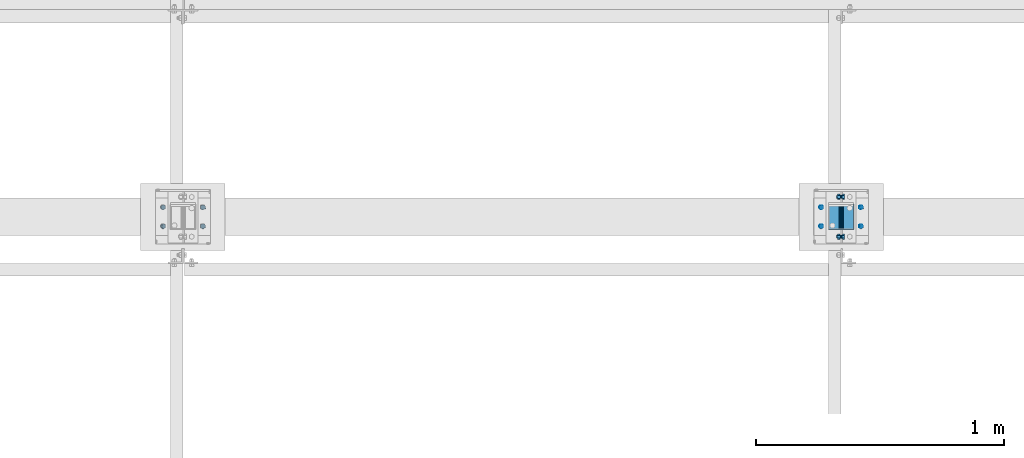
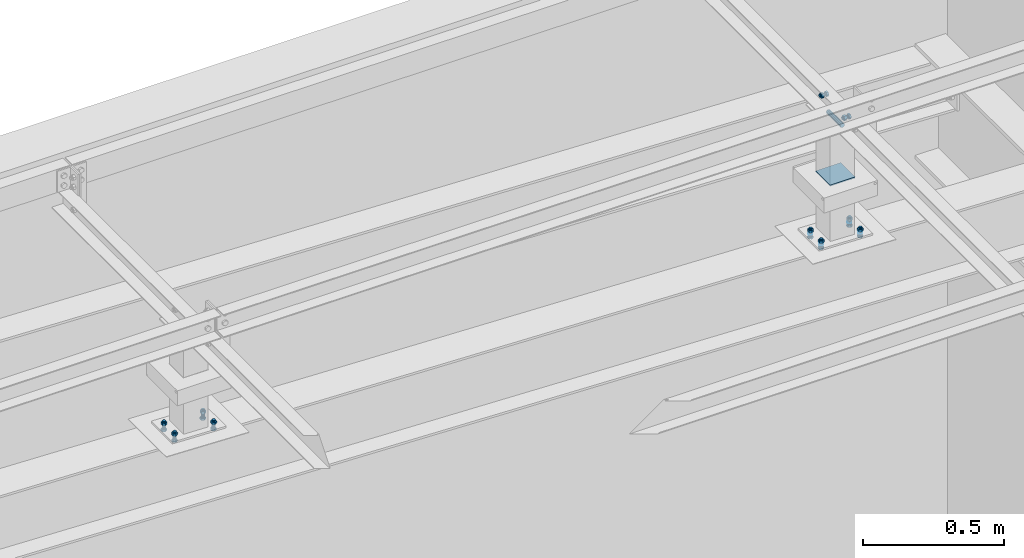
# One storey, part 217 of 3134: 6 mechanical fasteners, 4 elements without a shape of their own.
"""IFC2X3 building model written with IfcOpenShell, lengths in millimetres."""

from ifc_helpers import new_model, si_unit, frame, origin_with_axes, place, context, subcontext, project, spatial, faceted_brep, source, transform, mapped, material, type_object, element, aggregate, save


model = new_model("IFC2X3")

# Units and contexts
model_context = context("Model", 3, precision=1e-05, world=origin_with_axes())
body_context = subcontext(model_context, "Body", "Model", "MODEL_VIEW")
ifc_project = project(units=[si_unit("LENGTHUNIT", "METRE", prefix="MILLI"), si_unit("AREAUNIT", "SQUARE_METRE"), si_unit("VOLUMEUNIT", "CUBIC_METRE"), si_unit("MASSUNIT", "GRAM", prefix="KILO"), si_unit("TIMEUNIT", "SECOND"), si_unit("PLANEANGLEUNIT", "RADIAN"), si_unit("SOLIDANGLEUNIT", "STERADIAN"), si_unit("THERMODYNAMICTEMPERATUREUNIT", "DEGREE_CELSIUS"), si_unit("LUMINOUSINTENSITYUNIT", "LUMEN")], contexts=[model_context])

# Site, building, storey
site_placement = place(None, origin_with_axes())
site = spatial("IfcSite", under=ifc_project, at=site_placement, CompositionType="ELEMENT")
building_placement = place(site_placement, origin_with_axes())
building = spatial("IfcBuilding", under=site, at=building_placement, Name="Undefined", CompositionType="ELEMENT")
storey_placement = place(building_placement, origin_with_axes())
storey = spatial("IfcBuildingStorey", under=building, at=storey_placement, Name="Undefined", CompositionType="ELEMENT", Elevation=0.0)

# Assembly, mechanical fastener
assembly_1_placement = place(storey_placement, origin_with_axes())
assembly_1 = element("IfcElementAssembly", 1, at=assembly_1_placement, inside=storey, AssemblyPlace="NOTDEFINED", PredefinedType="RIGID_FRAME")
ifc_material_1 = material(Name="8.8")
mechanical_fastener_type = type_object("IfcMechanicalFastenerType", Name="Bolt assembly")
shared_shape_1 = source(origin_with_axes(), body_context, "Body", "Brep", [
    faceted_brep([(10.9696551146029, -14.0, 0.0), (5.48482755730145, -14.0, 9.5), (-5.48482755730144, -14.0, 9.5), (-10.9696551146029, -14.0, 1.34339530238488e-15), (-5.48482755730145, -14.0, -9.5), (5.48482755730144, -14.0, -9.50000000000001), (5.48482755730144, -6.0, -9.50000000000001), (-5.48482755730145, -6.0, -9.5), (-10.9696551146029, -6.0, 1.34339530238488e-15), (-5.48482755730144, -6.0, 9.5), (5.48482755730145, -6.0, 9.5), (10.9696551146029, -6.0, 0.0), (6.0, -6.0, 0.0), (5.19615242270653, -6.0, 3.00000000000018), (2.99999999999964, -6.0, 5.19615242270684), (-6.21801588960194e-13, -6.0, 6.0), (-3.00000000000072, -6.0, 5.19615242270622), (-5.19615242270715, -6.0, 2.9999999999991), (-6.0, -6.0, -1.24360317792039e-12), (-5.19615242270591, -6.0, -3.00000000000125), (-2.99999999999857, -6.0, -5.19615242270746), (1.85874342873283e-12, -6.0, -6.0), (3.00000000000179, -6.0, -5.1961524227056), (5.19615242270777, -6.0, -2.99999999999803), (5.19615242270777, 19.0, -2.99999999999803), (3.00000000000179, 19.0, -5.1961524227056), (1.85874342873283e-12, 19.0, -6.0), (-2.99999999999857, 19.0, -5.19615242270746), (-5.19615242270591, 19.0, -3.00000000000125), (-6.0, 19.0, -1.24360317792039e-12), (-5.19615242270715, 19.0, 2.9999999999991), (-3.00000000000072, 19.0, 5.19615242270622), (-6.21801588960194e-13, 19.0, 6.0), (2.99999999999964, 19.0, 5.19615242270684), (5.19615242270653, 19.0, 3.00000000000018), (6.0, 19.0, 0.0), (10.9696551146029, 4.00000000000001, 0.0), (5.48482755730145, 4.00000000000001, 9.5), (-5.48482755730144, 4.00000000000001, 9.5), (-10.9696551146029, 4.00000000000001, 1.34339530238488e-15), (-5.48482755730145, 4.00000000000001, -9.5), (5.48482755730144, 4.00000000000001, -9.50000000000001), (5.48482755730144, 14.0, -9.50000000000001), (-5.48482755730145, 14.0, -9.5), (-10.9696551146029, 14.0, 1.34339530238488e-15), (-5.48482755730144, 14.0, 9.5), (5.48482755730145, 14.0, 9.5), (10.9696551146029, 14.0, 0.0)], [[[0, 1, 2, 3, 4, 5]], [[6, 7, 8, 9, 10, 11]], [[0, 11, 10, 1]], [[1, 10, 9, 2]], [[2, 9, 8, 3]], [[3, 8, 7, 4]], [[4, 7, 6, 5]], [[5, 6, 11, 0]], [[12, 13, 14, 15, 16, 17, 18, 19, 20, 21, 22, 23]], [[24, 25, 26, 27, 28, 29, 30, 31, 32, 33, 34, 35]], [[12, 35, 34, 13]], [[13, 34, 33, 14]], [[14, 33, 32, 15]], [[15, 32, 31, 16]], [[16, 31, 30, 17]], [[17, 30, 29, 18]], [[18, 29, 28, 19]], [[19, 28, 27, 20]], [[20, 27, 26, 21]], [[21, 26, 25, 22]], [[22, 25, 24, 23]], [[23, 24, 35, 12]], [[36, 37, 38, 39, 40, 41]], [[42, 43, 44, 45, 46, 47]], [[36, 47, 46, 37]], [[37, 46, 45, 38]], [[38, 45, 44, 39]], [[39, 44, 43, 40]], [[40, 43, 42, 41]], [[41, 42, 47, 36]]]),
    faceted_brep([(7.0, -0.1, 0.0), (6.06217782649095, -0.1, 3.50000000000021), (3.49999999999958, -0.1, 6.06217782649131), (-7.25435187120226e-13, -0.1, 7.0), (-3.50000000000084, -0.1, 6.06217782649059), (-6.06217782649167, -0.1, 3.49999999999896), (-7.0, -0.1, -1.45087037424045e-12), (-6.06217782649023, -0.1, -3.50000000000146), (-3.49999999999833, -0.1, -6.06217782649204), (2.1685340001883e-12, -0.1, -7.0), (3.50000000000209, -0.1, -6.06217782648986), (6.0621778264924, -0.1, -3.4999999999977), (6.0621778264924, 4.00000000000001, -3.4999999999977), (3.50000000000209, 4.00000000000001, -6.06217782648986), (2.1685340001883e-12, 4.00000000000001, -7.0), (-3.49999999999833, 4.00000000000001, -6.06217782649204), (-6.06217782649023, 4.00000000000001, -3.50000000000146), (-7.0, 4.00000000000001, -1.45087037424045e-12), (-6.06217782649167, 4.00000000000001, 3.49999999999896), (-3.50000000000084, 4.00000000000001, 6.06217782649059), (-7.25435187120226e-13, 4.00000000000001, 7.0), (3.49999999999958, 4.00000000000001, 6.06217782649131), (6.06217782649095, 4.00000000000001, 3.50000000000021), (7.0, 4.00000000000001, 0.0), (7.0, -5.9, 0.0), (6.06217782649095, -5.9, 3.50000000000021), (3.49999999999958, -5.9, 6.06217782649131), (-7.25435187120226e-13, -5.9, 7.0), (-3.50000000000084, -5.9, 6.06217782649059), (-6.06217782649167, -5.9, 3.49999999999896), (-7.0, -5.9, -1.45087037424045e-12), (-6.06217782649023, -5.9, -3.50000000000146), (-3.49999999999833, -5.9, -6.06217782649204), (2.1685340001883e-12, -5.9, -7.0), (3.50000000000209, -5.9, -6.06217782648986), (6.0621778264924, -5.9, -3.4999999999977), (6.0621778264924, 0.0999999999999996, -3.4999999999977), (3.50000000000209, 0.0999999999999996, -6.06217782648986), (2.1685340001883e-12, 0.0999999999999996, -7.0), (-3.49999999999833, 0.0999999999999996, -6.06217782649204), (-6.06217782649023, 0.0999999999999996, -3.50000000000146), (-7.0, 0.0999999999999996, -1.45087037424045e-12), (-6.06217782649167, 0.0999999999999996, 3.49999999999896), (-3.50000000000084, 0.0999999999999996, 6.06217782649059), (-7.25435187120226e-13, 0.0999999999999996, 7.0), (3.49999999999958, 0.0999999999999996, 6.06217782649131), (6.06217782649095, 0.0999999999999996, 3.50000000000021), (7.0, 0.0999999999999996, 0.0)], [[[0, 1, 2, 3, 4, 5, 6, 7, 8, 9, 10, 11]], [[12, 13, 14, 15, 16, 17, 18, 19, 20, 21, 22, 23]], [[0, 23, 22, 1]], [[1, 22, 21, 2]], [[2, 21, 20, 3]], [[3, 20, 19, 4]], [[4, 19, 18, 5]], [[5, 18, 17, 6]], [[6, 17, 16, 7]], [[7, 16, 15, 8]], [[8, 15, 14, 9]], [[9, 14, 13, 10]], [[10, 13, 12, 11]], [[11, 12, 23, 0]], [[24, 25, 26, 27, 28, 29, 30, 31, 32, 33, 34, 35]], [[36, 37, 38, 39, 40, 41, 42, 43, 44, 45, 46, 47]], [[24, 47, 46, 25]], [[25, 46, 45, 26]], [[26, 45, 44, 27]], [[27, 44, 43, 28]], [[28, 43, 42, 29]], [[29, 42, 41, 30]], [[30, 41, 40, 31]], [[31, 40, 39, 32]], [[32, 39, 38, 33]], [[33, 38, 37, 34]], [[34, 37, 36, 35]], [[35, 36, 47, 24]]]),
])
mechanical_fastener_1_placement = place(assembly_1_placement, frame((8340.0, 48445.0, 4300.0), z_axis=(0.0, 0.0, 1.0), x_axis=(0.0, 1.0, 0.0)))
mechanical_fastener_1 = element("IfcMechanicalFastener", 2, at=mechanical_fastener_1_placement, type_object=mechanical_fastener_type, material=ifc_material_1, Name="Bolt assembly", NominalDiameter=12.0, NominalLength=25.0, context=body_context, shape_type="MappedRepresentation", body=[
    mapped(shared_shape_1, transform((0.0, 0.0, 0.0))),
    mapped(shared_shape_1, transform((160.0, 0.0, 0.0))),
])
aggregate(assembly_1, [mechanical_fastener_1])

assembly_2_placement = place(storey_placement, origin_with_axes())
assembly_2 = element("IfcElementAssembly", 3, at=assembly_2_placement, inside=storey, AssemblyPlace="NOTDEFINED", PredefinedType="RIGID_FRAME")
shared_shape_2 = source(origin_with_axes(), body_context, "Body", "Brep", [
    faceted_brep([(10.9696551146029, -4.18280906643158, 0.0), (5.48482755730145, -4.18280906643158, 9.5), (-5.48482755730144, -4.18280906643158, 9.5), (-10.9696551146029, -4.18280906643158, 1.34339530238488e-15), (-5.48482755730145, -4.18280906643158, -9.5), (5.48482755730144, -4.18280906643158, -9.50000000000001), (5.48482755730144, 3.81719093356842, -9.50000000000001), (-5.48482755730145, 3.81719093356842, -9.5), (-10.9696551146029, 3.81719093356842, 1.34339530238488e-15), (-5.48482755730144, 3.81719093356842, 9.5), (5.48482755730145, 3.81719093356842, 9.5), (10.9696551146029, 3.81719093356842, 0.0), (6.0, 3.81719093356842, 0.0), (5.19615242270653, 3.81719093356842, 3.00000000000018), (2.99999999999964, 3.81719093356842, 5.19615242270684), (-6.21801588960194e-13, 3.81719093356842, 6.0), (-3.00000000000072, 3.81719093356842, 5.19615242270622), (-5.19615242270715, 3.81719093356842, 2.9999999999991), (-6.0, 3.81719093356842, -1.24360317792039e-12), (-5.19615242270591, 3.81719093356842, -3.00000000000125), (-2.99999999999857, 3.81719093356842, -5.19615242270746), (1.85874342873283e-12, 3.81719093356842, -6.0), (3.00000000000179, 3.81719093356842, -5.1961524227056), (5.19615242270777, 3.81719093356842, -2.99999999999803), (5.19615242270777, 38.8171909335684, -2.99999999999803), (3.00000000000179, 38.8171909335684, -5.1961524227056), (1.85874342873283e-12, 38.8171909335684, -6.0), (-2.99999999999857, 38.8171909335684, -5.19615242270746), (-5.19615242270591, 38.8171909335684, -3.00000000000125), (-6.0, 38.8171909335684, -1.24360317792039e-12), (-5.19615242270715, 38.8171909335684, 2.9999999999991), (-3.00000000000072, 38.8171909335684, 5.19615242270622), (-6.21801588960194e-13, 38.8171909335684, 6.0), (2.99999999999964, 38.8171909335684, 5.19615242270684), (5.19615242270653, 38.8171909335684, 3.00000000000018), (6.0, 38.8171909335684, 0.0), (10.9696551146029, 23.0139082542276, 0.0), (5.48482755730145, 23.0139082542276, 9.5), (-5.48482755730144, 23.0139082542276, 9.5), (-10.9696551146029, 23.0139082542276, 1.34339530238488e-15), (-5.48482755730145, 23.0139082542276, -9.5), (5.48482755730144, 23.0139082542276, -9.50000000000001), (5.48482755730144, 33.0139082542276, -9.50000000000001), (-5.48482755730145, 33.0139082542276, -9.5), (-10.9696551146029, 33.0139082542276, 1.34339530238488e-15), (-5.48482755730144, 33.0139082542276, 9.5), (5.48482755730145, 33.0139082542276, 9.5), (10.9696551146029, 33.0139082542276, 0.0)], [[[0, 1, 2, 3, 4, 5]], [[6, 7, 8, 9, 10, 11]], [[0, 11, 10, 1]], [[1, 10, 9, 2]], [[2, 9, 8, 3]], [[3, 8, 7, 4]], [[4, 7, 6, 5]], [[5, 6, 11, 0]], [[12, 13, 14, 15, 16, 17, 18, 19, 20, 21, 22, 23]], [[24, 25, 26, 27, 28, 29, 30, 31, 32, 33, 34, 35]], [[12, 35, 34, 13]], [[13, 34, 33, 14]], [[14, 33, 32, 15]], [[15, 32, 31, 16]], [[16, 31, 30, 17]], [[17, 30, 29, 18]], [[18, 29, 28, 19]], [[19, 28, 27, 20]], [[20, 27, 26, 21]], [[21, 26, 25, 22]], [[22, 25, 24, 23]], [[23, 24, 35, 12]], [[36, 37, 38, 39, 40, 41]], [[42, 43, 44, 45, 46, 47]], [[36, 47, 46, 37]], [[37, 46, 45, 38]], [[38, 45, 44, 39]], [[39, 44, 43, 40]], [[40, 43, 42, 41]], [[41, 42, 47, 36]]]),
    faceted_brep([(7.0, 3.91719093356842, 0.0), (6.06217782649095, 3.91719093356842, 3.50000000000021), (3.49999999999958, 3.91719093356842, 6.06217782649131), (-7.25435187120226e-13, 3.91719093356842, 7.0), (-3.50000000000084, 3.91719093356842, 6.06217782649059), (-6.06217782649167, 3.91719093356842, 3.49999999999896), (-7.0, 3.91719093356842, -1.45087037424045e-12), (-6.06217782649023, 3.91719093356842, -3.50000000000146), (-3.49999999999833, 3.91719093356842, -6.06217782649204), (2.1685340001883e-12, 3.91719093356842, -7.0), (3.50000000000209, 3.91719093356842, -6.06217782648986), (6.0621778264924, 3.91719093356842, -3.4999999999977), (6.0621778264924, 13.1171907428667, -3.4999999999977), (3.50000000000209, 13.1171907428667, -6.06217782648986), (2.1685340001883e-12, 13.1171907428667, -7.0), (-3.49999999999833, 13.1171907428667, -6.06217782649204), (-6.06217782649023, 13.1171907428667, -3.50000000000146), (-7.0, 13.1171907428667, -1.45087037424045e-12), (-6.06217782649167, 13.1171907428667, 3.49999999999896), (-3.50000000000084, 13.1171907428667, 6.06217782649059), (-7.25435187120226e-13, 13.1171907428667, 7.0), (3.49999999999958, 13.1171907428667, 6.06217782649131), (6.06217782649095, 13.1171907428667, 3.50000000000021), (7.0, 13.1171907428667, 0.0), (7.0, 14.9139082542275, 0.0), (6.06217782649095, 14.9139082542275, 3.50000000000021), (3.49999999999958, 14.9139082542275, 6.06217782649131), (-7.25435187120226e-13, 14.9139082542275, 7.0), (-3.50000000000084, 14.9139082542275, 6.06217782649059), (-6.06217782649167, 14.9139082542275, 3.49999999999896), (-7.0, 14.9139082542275, -1.45087037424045e-12), (-6.06217782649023, 14.9139082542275, -3.50000000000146), (-3.49999999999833, 14.9139082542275, -6.06217782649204), (2.1685340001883e-12, 14.9139082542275, -7.0), (3.50000000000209, 14.9139082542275, -6.06217782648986), (6.0621778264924, 14.9139082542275, -3.4999999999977), (6.0621778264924, 23.0139082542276, -3.4999999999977), (3.50000000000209, 23.0139082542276, -6.06217782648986), (2.1685340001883e-12, 23.0139082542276, -7.0), (-3.49999999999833, 23.0139082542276, -6.06217782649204), (-6.06217782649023, 23.0139082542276, -3.50000000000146), (-7.0, 23.0139082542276, -1.45087037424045e-12), (-6.06217782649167, 23.0139082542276, 3.49999999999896), (-3.50000000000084, 23.0139082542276, 6.06217782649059), (-7.25435187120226e-13, 23.0139082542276, 7.0), (3.49999999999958, 23.0139082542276, 6.06217782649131), (6.06217782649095, 23.0139082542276, 3.50000000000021), (7.0, 23.0139082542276, 0.0)], [[[0, 1, 2, 3, 4, 5, 6, 7, 8, 9, 10, 11]], [[12, 13, 14, 15, 16, 17, 18, 19, 20, 21, 22, 23]], [[0, 23, 22, 1]], [[1, 22, 21, 2]], [[2, 21, 20, 3]], [[3, 20, 19, 4]], [[4, 19, 18, 5]], [[5, 18, 17, 6]], [[6, 17, 16, 7]], [[7, 16, 15, 8]], [[8, 15, 14, 9]], [[9, 14, 13, 10]], [[10, 13, 12, 11]], [[11, 12, 23, 0]], [[24, 25, 26, 27, 28, 29, 30, 31, 32, 33, 34, 35]], [[36, 37, 38, 39, 40, 41, 42, 43, 44, 45, 46, 47]], [[24, 47, 46, 25]], [[25, 46, 45, 26]], [[26, 45, 44, 27]], [[27, 44, 43, 28]], [[28, 43, 42, 29]], [[29, 42, 41, 30]], [[30, 41, 40, 31]], [[31, 40, 39, 32]], [[32, 39, 38, 33]], [[33, 38, 37, 34]], [[34, 37, 36, 35]], [[35, 36, 47, 24]]]),
])
mechanical_fastener_2_placement = place(assembly_2_placement, frame((5690.86475070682, 48562.9999999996, 3827.79222028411), z_axis=(-0.999387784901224, 0.0, 0.0349865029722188), x_axis=(0.0, -1.0, 0.0)))
mechanical_fastener_2 = element("IfcMechanicalFastener", 4, at=mechanical_fastener_2_placement, type_object=mechanical_fastener_type, material=ifc_material_1, Name="Bolt assembly", NominalDiameter=12.0, NominalLength=35.0, context=body_context, shape_type="MappedRepresentation", body=[
    mapped(shared_shape_2, transform((0.0, -5.32963895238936e-10, -79.9999999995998))),
    mapped(shared_shape_2, transform((76.0, -5.32963895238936e-10, -79.9999999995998))),
    mapped(shared_shape_2, transform((0.0, 5.3114490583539e-10, 79.9999999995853))),
    mapped(shared_shape_2, transform((76.0, 5.3114490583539e-10, 79.9999999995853))),
])
aggregate(assembly_2, [mechanical_fastener_2])

assembly_3_placement = place(storey_placement, origin_with_axes())
assembly_3 = element("IfcElementAssembly", 5, at=assembly_3_placement, inside=storey, AssemblyPlace="NOTDEFINED", PredefinedType="RIGID_FRAME")
shared_shape_3 = source(origin_with_axes(), body_context, "Body", "Brep", [
    faceted_brep([(10.9696551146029, -4.18346828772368, 0.0), (5.48482755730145, -4.18346828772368, 9.5), (-5.48482755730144, -4.18346828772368, 9.5), (-10.9696551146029, -4.18346828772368, 1.34339530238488e-15), (-5.48482755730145, -4.18346828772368, -9.5), (5.48482755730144, -4.18346828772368, -9.50000000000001), (5.48482755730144, 3.81653171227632, -9.50000000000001), (-5.48482755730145, 3.81653171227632, -9.5), (-10.9696551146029, 3.81653171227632, 1.34339530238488e-15), (-5.48482755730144, 3.81653171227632, 9.5), (5.48482755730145, 3.81653171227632, 9.5), (10.9696551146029, 3.81653171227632, 0.0), (6.0, 3.81653171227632, 0.0), (5.19615242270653, 3.81653171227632, 3.00000000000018), (2.99999999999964, 3.81653171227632, 5.19615242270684), (-6.21801588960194e-13, 3.81653171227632, 6.0), (-3.00000000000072, 3.81653171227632, 5.19615242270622), (-5.19615242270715, 3.81653171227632, 2.9999999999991), (-6.0, 3.81653171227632, -1.24360317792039e-12), (-5.19615242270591, 3.81653171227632, -3.00000000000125), (-2.99999999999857, 3.81653171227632, -5.19615242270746), (1.85874342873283e-12, 3.81653171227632, -6.0), (3.00000000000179, 3.81653171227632, -5.1961524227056), (5.19615242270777, 3.81653171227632, -2.99999999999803), (5.19615242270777, 38.8165317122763, -2.99999999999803), (3.00000000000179, 38.8165317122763, -5.1961524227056), (1.85874342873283e-12, 38.8165317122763, -6.0), (-2.99999999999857, 38.8165317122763, -5.19615242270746), (-5.19615242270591, 38.8165317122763, -3.00000000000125), (-6.0, 38.8165317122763, -1.24360317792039e-12), (-5.19615242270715, 38.8165317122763, 2.9999999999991), (-3.00000000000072, 38.8165317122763, 5.19615242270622), (-6.21801588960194e-13, 38.8165317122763, 6.0), (2.99999999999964, 38.8165317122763, 5.19615242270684), (5.19615242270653, 38.8165317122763, 3.00000000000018), (6.0, 38.8165317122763, 0.0), (10.9696551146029, 23.0139082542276, 0.0), (5.48482755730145, 23.0139082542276, 9.5), (-5.48482755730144, 23.0139082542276, 9.5), (-10.9696551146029, 23.0139082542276, 1.34339530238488e-15), (-5.48482755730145, 23.0139082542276, -9.5), (5.48482755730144, 23.0139082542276, -9.50000000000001), (5.48482755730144, 33.0139082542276, -9.50000000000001), (-5.48482755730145, 33.0139082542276, -9.5), (-10.9696551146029, 33.0139082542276, 1.34339530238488e-15), (-5.48482755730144, 33.0139082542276, 9.5), (5.48482755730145, 33.0139082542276, 9.5), (10.9696551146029, 33.0139082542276, 0.0)], [[[0, 1, 2, 3, 4, 5]], [[6, 7, 8, 9, 10, 11]], [[0, 11, 10, 1]], [[1, 10, 9, 2]], [[2, 9, 8, 3]], [[3, 8, 7, 4]], [[4, 7, 6, 5]], [[5, 6, 11, 0]], [[12, 13, 14, 15, 16, 17, 18, 19, 20, 21, 22, 23]], [[24, 25, 26, 27, 28, 29, 30, 31, 32, 33, 34, 35]], [[12, 35, 34, 13]], [[13, 34, 33, 14]], [[14, 33, 32, 15]], [[15, 32, 31, 16]], [[16, 31, 30, 17]], [[17, 30, 29, 18]], [[18, 29, 28, 19]], [[19, 28, 27, 20]], [[20, 27, 26, 21]], [[21, 26, 25, 22]], [[22, 25, 24, 23]], [[23, 24, 35, 12]], [[36, 37, 38, 39, 40, 41]], [[42, 43, 44, 45, 46, 47]], [[36, 47, 46, 37]], [[37, 46, 45, 38]], [[38, 45, 44, 39]], [[39, 44, 43, 40]], [[40, 43, 42, 41]], [[41, 42, 47, 36]]]),
    faceted_brep([(7.0, 3.91653171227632, 0.0), (6.06217782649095, 3.91653171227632, 3.50000000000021), (3.49999999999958, 3.91653171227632, 6.06217782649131), (-7.25435187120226e-13, 3.91653171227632, 7.0), (-3.50000000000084, 3.91653171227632, 6.06217782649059), (-6.06217782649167, 3.91653171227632, 3.49999999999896), (-7.0, 3.91653171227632, -1.45087037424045e-12), (-6.06217782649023, 3.91653171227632, -3.50000000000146), (-3.49999999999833, 3.91653171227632, -6.06217782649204), (2.1685340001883e-12, 3.91653171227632, -7.0), (3.50000000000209, 3.91653171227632, -6.06217782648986), (6.0621778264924, 3.91653171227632, -3.4999999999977), (6.0621778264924, 13.1165315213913, -3.4999999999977), (3.50000000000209, 13.1165315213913, -6.06217782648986), (2.1685340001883e-12, 13.1165315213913, -7.0), (-3.49999999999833, 13.1165315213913, -6.06217782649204), (-6.06217782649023, 13.1165315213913, -3.50000000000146), (-7.0, 13.1165315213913, -1.45087037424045e-12), (-6.06217782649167, 13.1165315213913, 3.49999999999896), (-3.50000000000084, 13.1165315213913, 6.06217782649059), (-7.25435187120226e-13, 13.1165315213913, 7.0), (3.49999999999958, 13.1165315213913, 6.06217782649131), (6.06217782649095, 13.1165315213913, 3.50000000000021), (7.0, 13.1165315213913, 0.0), (7.0, 14.9139082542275, 0.0), (6.06217782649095, 14.9139082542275, 3.50000000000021), (3.49999999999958, 14.9139082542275, 6.06217782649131), (-7.25435187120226e-13, 14.9139082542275, 7.0), (-3.50000000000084, 14.9139082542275, 6.06217782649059), (-6.06217782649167, 14.9139082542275, 3.49999999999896), (-7.0, 14.9139082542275, -1.45087037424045e-12), (-6.06217782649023, 14.9139082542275, -3.50000000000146), (-3.49999999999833, 14.9139082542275, -6.06217782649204), (2.1685340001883e-12, 14.9139082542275, -7.0), (3.50000000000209, 14.9139082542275, -6.06217782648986), (6.0621778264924, 14.9139082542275, -3.4999999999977), (6.0621778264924, 23.0139082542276, -3.4999999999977), (3.50000000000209, 23.0139082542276, -6.06217782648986), (2.1685340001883e-12, 23.0139082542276, -7.0), (-3.49999999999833, 23.0139082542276, -6.06217782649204), (-6.06217782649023, 23.0139082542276, -3.50000000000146), (-7.0, 23.0139082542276, -1.45087037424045e-12), (-6.06217782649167, 23.0139082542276, 3.49999999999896), (-3.50000000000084, 23.0139082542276, 6.06217782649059), (-7.25435187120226e-13, 23.0139082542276, 7.0), (3.49999999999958, 23.0139082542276, 6.06217782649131), (6.06217782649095, 23.0139082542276, 3.50000000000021), (7.0, 23.0139082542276, 0.0)], [[[0, 1, 2, 3, 4, 5, 6, 7, 8, 9, 10, 11]], [[12, 13, 14, 15, 16, 17, 18, 19, 20, 21, 22, 23]], [[0, 23, 22, 1]], [[1, 22, 21, 2]], [[2, 21, 20, 3]], [[3, 20, 19, 4]], [[4, 19, 18, 5]], [[5, 18, 17, 6]], [[6, 17, 16, 7]], [[7, 16, 15, 8]], [[8, 15, 14, 9]], [[9, 14, 13, 10]], [[10, 13, 12, 11]], [[11, 12, 23, 0]], [[24, 25, 26, 27, 28, 29, 30, 31, 32, 33, 34, 35]], [[36, 37, 38, 39, 40, 41, 42, 43, 44, 45, 46, 47]], [[24, 47, 46, 25]], [[25, 46, 45, 26]], [[26, 45, 44, 27]], [[27, 44, 43, 28]], [[28, 43, 42, 29]], [[29, 42, 41, 30]], [[30, 41, 40, 31]], [[31, 40, 39, 32]], [[32, 39, 38, 33]], [[33, 38, 37, 34]], [[34, 37, 36, 35]], [[35, 36, 47, 24]]]),
])
mechanical_fastener_3_placement = place(assembly_3_placement, frame((8339.19318655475, 48562.9999999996, 3735.10000668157), z_axis=(-0.999387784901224, 0.0, 0.0349865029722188), x_axis=(0.0, -1.0, 0.0)))
mechanical_fastener_3 = element("IfcMechanicalFastener", 6, at=mechanical_fastener_3_placement, type_object=mechanical_fastener_type, material=ifc_material_1, Name="Bolt assembly", NominalDiameter=12.0, NominalLength=35.0, context=body_context, shape_type="MappedRepresentation", body=[
    mapped(shared_shape_3, transform((0.0, -5.32963895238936e-10, -79.9999999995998))),
    mapped(shared_shape_3, transform((76.0, -5.32963895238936e-10, -79.9999999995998))),
    mapped(shared_shape_3, transform((0.0, 5.3114490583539e-10, 79.9999999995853))),
    mapped(shared_shape_3, transform((76.0, 5.3114490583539e-10, 79.9999999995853))),
])

assembly_4_placement = place(storey_placement, origin_with_axes())
assembly_4 = element("IfcElementAssembly", 7, at=assembly_4_placement, inside=storey, AssemblyPlace="NOTDEFINED", PredefinedType="RIGID_FRAME")
shared_shape_4 = source(origin_with_axes(), body_context, "Body", "Brep", [
    faceted_brep([(7.0, 13.0000253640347, 0.0), (6.06217782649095, 13.0000253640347, 3.50000000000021), (3.49999999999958, 13.0000253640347, 6.06217782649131), (-7.25435187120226e-13, 13.0000253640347, 7.0), (-3.50000000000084, 13.0000253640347, 6.06217782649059), (-6.06217782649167, 13.0000253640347, 3.49999999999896), (-7.0, 13.0000253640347, -1.45087037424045e-12), (-6.06217782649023, 13.0000253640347, -3.50000000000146), (-3.49999999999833, 13.0000253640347, -6.06217782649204), (2.1685340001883e-12, 13.0000253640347, -7.0), (3.50000000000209, 13.0000253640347, -6.06217782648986), (6.0621778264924, 13.0000253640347, -3.4999999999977), (6.0621778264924, 15.0999999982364, -3.4999999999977), (3.50000000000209, 15.0999999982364, -6.06217782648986), (2.1685340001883e-12, 15.0999999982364, -7.0), (-3.49999999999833, 15.0999999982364, -6.06217782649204), (-6.06217782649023, 15.0999999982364, -3.50000000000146), (-7.0, 15.0999999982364, -1.45087037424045e-12), (-6.06217782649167, 15.0999999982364, 3.49999999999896), (-3.50000000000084, 15.0999999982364, 6.06217782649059), (-7.25435187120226e-13, 15.0999999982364, 7.0), (3.49999999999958, 15.0999999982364, 6.06217782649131), (6.06217782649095, 15.0999999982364, 3.50000000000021), (7.0, 15.0999999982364, 0.0)], [[[0, 1, 2, 3, 4, 5, 6, 7, 8, 9, 10, 11]], [[12, 13, 14, 15, 16, 17, 18, 19, 20, 21, 22, 23]], [[0, 23, 22, 1]], [[1, 22, 21, 2]], [[2, 21, 20, 3]], [[3, 20, 19, 4]], [[4, 19, 18, 5]], [[5, 18, 17, 6]], [[6, 17, 16, 7]], [[7, 16, 15, 8]], [[8, 15, 14, 9]], [[9, 14, 13, 10]], [[10, 13, 12, 11]], [[11, 12, 23, 0]]]),
])
mechanical_fastener_4_placement = place(assembly_4_placement, frame((8339.19318655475, 48562.9999999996, 3735.10000668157), z_axis=(-0.999387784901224, 0.0, 0.0349865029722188), x_axis=(0.0, -1.0, 0.0)))
mechanical_fastener_4 = element("IfcMechanicalFastener", 8, at=mechanical_fastener_4_placement, type_object=mechanical_fastener_type, material=ifc_material_1, Name="Bolt assembly", NominalDiameter=12.0, NominalLength=2.0, context=body_context, shape_type="MappedRepresentation", body=[
    mapped(shared_shape_4, transform((0.0, -5.32963895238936e-10, -79.9999999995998))),
    mapped(shared_shape_4, transform((76.0, -5.32963895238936e-10, -79.9999999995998))),
    mapped(shared_shape_4, transform((0.0, 5.3114490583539e-10, 79.9999999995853))),
    mapped(shared_shape_4, transform((76.0, 5.3114490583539e-10, 79.9999999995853))),
])
aggregate(assembly_4, [mechanical_fastener_4])

# Mechanical fastener
shared_shape_5 = source(origin_with_axes(), body_context, "Body", "Brep", [
    faceted_brep([(9.0, -50.0, 0.0), (7.79422863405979, -50.0, 4.50000000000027), (4.49999999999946, -50.0, 7.79422863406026), (-9.3270238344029e-13, -50.0, 9.0), (-4.50000000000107, -50.0, 7.79422863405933), (-7.79422863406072, -50.0, 4.49999999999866), (-9.0, -50.0, -1.86540476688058e-12), (-7.79422863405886, -50.0, -4.50000000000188), (-4.49999999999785, -50.0, -7.79422863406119), (2.78811514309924e-12, -50.0, -9.0), (4.50000000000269, -50.0, -7.7942286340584), (7.79422863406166, -50.0, -4.49999999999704), (7.79422863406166, 50.1, -4.49999999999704), (4.50000000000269, 50.1, -7.7942286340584), (2.78811514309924e-12, 50.1, -9.0), (-4.49999999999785, 50.1, -7.79422863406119), (-7.79422863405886, 50.1, -4.50000000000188), (-9.0, 50.1, -1.86540476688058e-12), (-7.79422863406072, 50.1, 4.49999999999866), (-4.50000000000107, 50.1, 7.79422863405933), (-9.3270238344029e-13, 50.1, 9.0), (4.49999999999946, 50.1, 7.79422863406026), (7.79422863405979, 50.1, 4.50000000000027), (9.0, 50.1, 0.0)], [[[0, 1, 2, 3, 4, 5, 6, 7, 8, 9, 10, 11]], [[12, 13, 14, 15, 16, 17, 18, 19, 20, 21, 22, 23]], [[0, 23, 22, 1]], [[1, 22, 21, 2]], [[2, 21, 20, 3]], [[3, 20, 19, 4]], [[4, 19, 18, 5]], [[5, 18, 17, 6]], [[6, 17, 16, 7]], [[7, 16, 15, 8]], [[8, 15, 14, 9]], [[9, 14, 13, 10]], [[10, 13, 12, 11]], [[11, 12, 23, 0]]]),
])
mechanical_fastener_5_placement = place(assembly_3_placement, frame((8340.0, 48525.0, 4245.0), z_axis=(-1.0, 0.0, 0.0), x_axis=(0.0, 0.0, 1.0)))
mechanical_fastener_5 = element("IfcMechanicalFastener", 9, at=mechanical_fastener_5_placement, type_object=mechanical_fastener_type, material=ifc_material_1, Name="Bolt assembly", NominalDiameter=16.0, NominalLength=100.0, context=body_context, shape_type="MappedRepresentation", body=[
    mapped(shared_shape_5, transform((0.0, 0.0, 0.0))),
])

ifc_material_2 = material(Name="6.8")
shared_shape_6 = source(origin_with_axes(), body_context, "Body", "Brep", [
    faceted_brep([(51.5, 1.36424205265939e-12, 50.0), (51.3858192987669, 1.36424205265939e-12, 50.5740251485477), (51.0606601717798, 1.36424205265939e-12, 51.0606601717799), (50.5740251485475, 1.36424205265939e-12, 51.385819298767), (-50.0000000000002, 1.36424205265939e-12, 51.5), (-50.7500000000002, 1.36424205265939e-12, 51.2990381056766), (-51.2990381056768, 1.36424205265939e-12, 50.7499999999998), (-51.5, 1.36424205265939e-12, 49.9999999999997), (-51.5, 1.36424205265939e-12, -50.0000000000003), (-51.2990381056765, 1.36424205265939e-12, -50.7500000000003), (-50.7499999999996, 1.36424205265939e-12, -51.2990381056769), (-49.9999999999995, 1.36424205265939e-12, -51.5), (50.0000000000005, 1.36424205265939e-12, -51.5), (50.7500000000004, 1.36424205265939e-12, -51.2990381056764), (51.2990381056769, 1.36424205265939e-12, -50.7499999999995), (51.5, 1.36424205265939e-12, -49.9999999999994), (51.5, 5.10000000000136, -49.9999999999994), (51.2990381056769, 5.10000000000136, -50.7499999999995), (50.7500000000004, 5.10000000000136, -51.2990381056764), (50.0000000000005, 5.10000000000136, -51.5), (-49.9999999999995, 5.10000000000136, -51.5), (-50.7499999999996, 5.10000000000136, -51.2990381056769), (-51.2990381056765, 5.10000000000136, -50.7500000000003), (-51.5, 5.10000000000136, -50.0000000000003), (-51.5, 5.10000000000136, 49.9999999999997), (-51.2990381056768, 5.10000000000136, 50.7499999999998), (-50.7500000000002, 5.10000000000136, 51.2990381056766), (-50.0000000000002, 5.10000000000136, 51.5), (50.5740251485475, 5.10000000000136, 51.385819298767), (51.0606601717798, 5.10000000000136, 51.0606601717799), (51.3858192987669, 5.10000000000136, 50.5740251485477), (51.5, 5.10000000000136, 50.0)], [[[0, 1, 2, 3, 4, 5, 6, 7, 8, 9, 10, 11, 12, 13, 14, 15]], [[16, 17, 18, 19, 20, 21, 22, 23, 24, 25, 26, 27, 28, 29, 30, 31]], [[0, 31, 30, 1]], [[1, 30, 29, 2]], [[2, 29, 28, 3]], [[3, 28, 27, 4]], [[4, 27, 26, 5]], [[5, 26, 25, 6]], [[6, 25, 24, 7]], [[7, 24, 23, 8]], [[8, 23, 22, 9]], [[9, 22, 21, 10]], [[10, 21, 20, 11]], [[11, 20, 19, 12]], [[12, 19, 18, 13]], [[13, 18, 17, 14]], [[14, 17, 16, 15]], [[15, 16, 31, 0]]]),
])
mechanical_fastener_6_placement = place(assembly_3_placement, frame((8340.0, 48525.0, 4004.89), z_axis=(0.0, -1.0, 0.0), x_axis=(-1.0, 0.0, 0.0)))
mechanical_fastener_6 = element("IfcMechanicalFastener", 10, at=mechanical_fastener_6_placement, type_object=mechanical_fastener_type, material=ifc_material_2, Name="Bolt assembly", NominalDiameter=10.0, NominalLength=5.0, context=body_context, shape_type="MappedRepresentation", body=[
    mapped(shared_shape_6, transform((0.0, 0.0, 0.0))),
])

aggregate(assembly_3, [mechanical_fastener_3, mechanical_fastener_6, mechanical_fastener_5])

save(model, "model.ifc")
